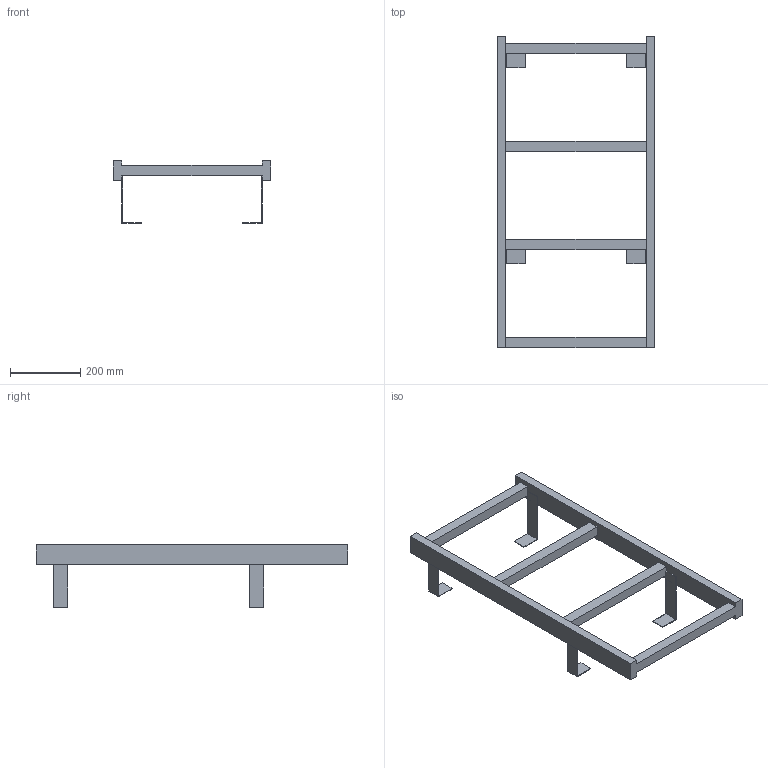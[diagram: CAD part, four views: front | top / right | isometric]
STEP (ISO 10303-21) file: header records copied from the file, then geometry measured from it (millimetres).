
FILE_DESCRIPTION((''),'2;1');
FILE_NAME('52311076','2024-10-17T13:02:55',('wep'),('HUBER SE'),'CREO PARAMETRIC BY PTC INC, 2022162','CREO PARAMETRIC BY PTC INC, 2022162','');
FILE_SCHEMA(('AUTOMOTIVE_DESIGN { 1 0 10303 214 1 1 1 1 }'));
Length unit declared in the file: millimetre
Products named in the file (1): 52311076
Bounding box: 450 x 890 x 178.5 mm (x, y, z)
Volume: 4041460 mm3; surface area: 541908 mm2
Topology: 1 solids, 1 shells, 58 faces, 168 edges, 108 vertices
Faces by surface type: plane 58
Entity records: 2437 total; most frequent: CARTESIAN_POINT 336, ORIENTED_EDGE 336, DIRECTION 284, VECTOR 168, LINE 168, EDGE_CURVE 168, VERTEX_POINT 108, COLOUR_RGB 106
